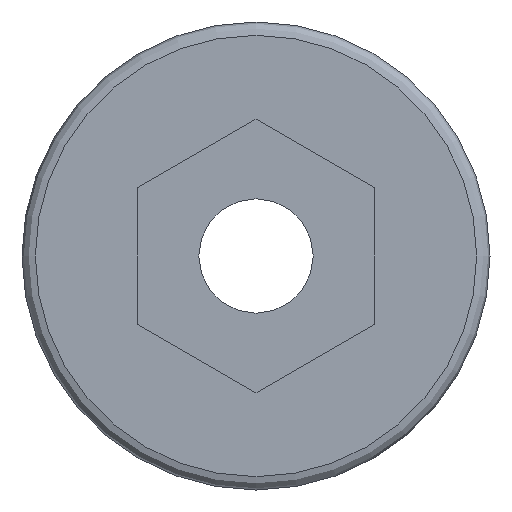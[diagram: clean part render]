
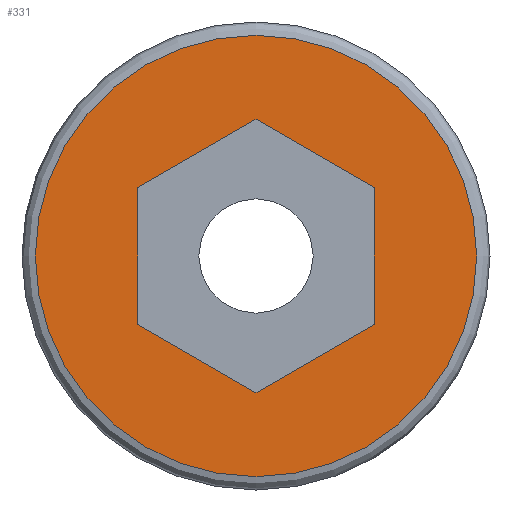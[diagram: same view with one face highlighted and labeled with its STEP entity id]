
A CAD part, front view. The second image highlights one B-rep face of the part: STEP entity #331.
In plain terms, the highlighted planar face has unit normal (0, -1, 0).
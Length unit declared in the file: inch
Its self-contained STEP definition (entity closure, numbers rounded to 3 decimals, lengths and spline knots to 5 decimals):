
#17=FACE_BOUND('',#108,.T.);
#22=PLANE('',#378);
#34=LINE('',#550,#57);
#35=LINE('',#552,#58);
#36=LINE('',#554,#59);
#37=LINE('',#556,#60);
#38=LINE('',#558,#61);
#39=LINE('',#559,#62);
#57=VECTOR('',#446,0.3937);
#58=VECTOR('',#447,0.3937);
#59=VECTOR('',#448,0.3937);
#60=VECTOR('',#449,0.3937);
#61=VECTOR('',#450,0.3937);
#62=VECTOR('',#451,0.3937);
#87=FACE_OUTER_BOUND('',#107,.T.);
#107=EDGE_LOOP('',(#253,#254));
#108=EDGE_LOOP('',(#255,#256,#257,#258,#259,#260));
#132=CIRCLE('',#370,0.1155);
#136=CIRCLE('',#374,0.1155);
#155=VERTEX_POINT('',#532);
#156=VERTEX_POINT('',#533);
#161=VERTEX_POINT('',#548);
#162=VERTEX_POINT('',#549);
#163=VERTEX_POINT('',#551);
#164=VERTEX_POINT('',#553);
#165=VERTEX_POINT('',#555);
#166=VERTEX_POINT('',#557);
#190=EDGE_CURVE('',#155,#156,#132,.T.);
#194=EDGE_CURVE('',#156,#155,#136,.T.);
#198=EDGE_CURVE('',#161,#162,#34,.T.);
#199=EDGE_CURVE('',#162,#163,#35,.T.);
#200=EDGE_CURVE('',#163,#164,#36,.T.);
#201=EDGE_CURVE('',#164,#165,#37,.T.);
#202=EDGE_CURVE('',#165,#166,#38,.T.);
#203=EDGE_CURVE('',#166,#161,#39,.T.);
#253=ORIENTED_EDGE('',*,*,#190,.F.);
#254=ORIENTED_EDGE('',*,*,#194,.F.);
#255=ORIENTED_EDGE('',*,*,#198,.T.);
#256=ORIENTED_EDGE('',*,*,#199,.T.);
#257=ORIENTED_EDGE('',*,*,#200,.T.);
#258=ORIENTED_EDGE('',*,*,#201,.T.);
#259=ORIENTED_EDGE('',*,*,#202,.T.);
#260=ORIENTED_EDGE('',*,*,#203,.T.);
#331=ADVANCED_FACE('',(#87,#17),#22,.T.);
#370=AXIS2_PLACEMENT_3D('',#534,#427,#428);
#374=AXIS2_PLACEMENT_3D('',#540,#435,#436);
#378=AXIS2_PLACEMENT_3D('',#547,#444,#445);
#427=DIRECTION('center_axis',(0.,1.,0.));
#428=DIRECTION('ref_axis',(0.,0.,1.));
#435=DIRECTION('center_axis',(0.,1.,0.));
#436=DIRECTION('ref_axis',(0.,0.,1.));
#444=DIRECTION('center_axis',(0.,-1.,0.));
#445=DIRECTION('ref_axis',(0.,0.,-1.));
#446=DIRECTION('',(0.866,0.,-0.5));
#447=DIRECTION('',(0.,0.,-1.));
#448=DIRECTION('',(-0.866,0.,-0.5));
#449=DIRECTION('',(-0.866,0.,0.5));
#450=DIRECTION('',(0.,0.,1.));
#451=DIRECTION('',(0.866,0.,0.5));
#532=CARTESIAN_POINT('',(0.,0.,-0.1155));
#533=CARTESIAN_POINT('',(0.,0.,0.1155));
#534=CARTESIAN_POINT('Origin',(0.,0.,0.));
#540=CARTESIAN_POINT('Origin',(0.,0.,0.));
#547=CARTESIAN_POINT('Origin',(0.,0.,-0.03));
#548=CARTESIAN_POINT('',(0.,0.,0.07159));
#549=CARTESIAN_POINT('',(0.062,0.,0.0358));
#550=CARTESIAN_POINT('',(0.022,0.,0.05889));
#551=CARTESIAN_POINT('',(0.062,0.,-0.0358));
#552=CARTESIAN_POINT('',(0.062,0.,0.0029));
#553=CARTESIAN_POINT('',(0.,0.,-0.07159));
#554=CARTESIAN_POINT('',(0.04,0.,-0.04849));
#555=CARTESIAN_POINT('',(-0.062,0.,-0.0358));
#556=CARTESIAN_POINT('',(-0.009,0.,-0.06639));
#557=CARTESIAN_POINT('',(-0.062,0.,0.0358));
#558=CARTESIAN_POINT('',(-0.062,0.,-0.0329));
#559=CARTESIAN_POINT('',(-0.053,0.,0.04099));
